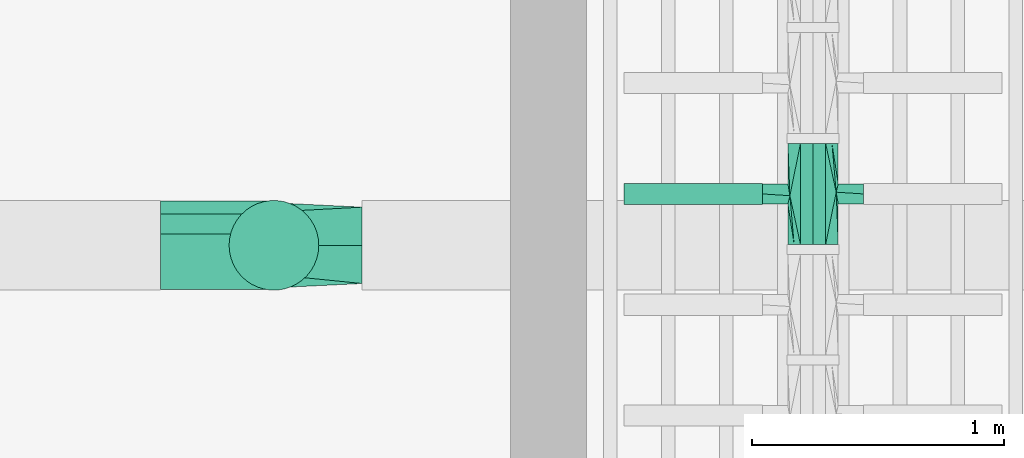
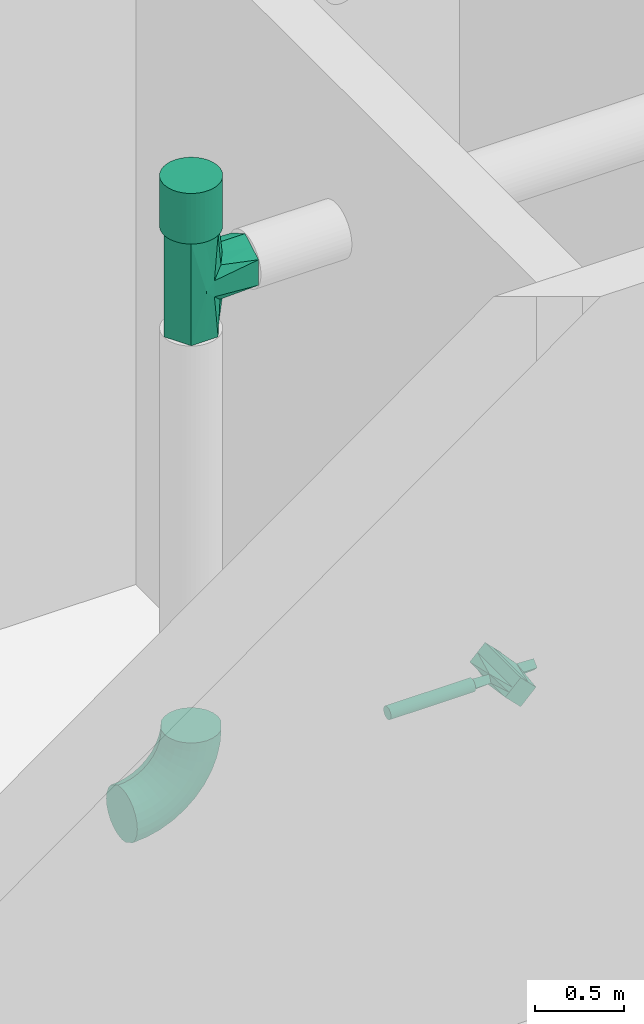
# One storey, part 11 of 28: 3 flow fittings, 2 flow segments.
"""IFC2X3 building model written with IfcOpenShell, lengths in millimetres."""

from ifc_helpers import new_model, entity, si_unit, converted_unit, direction, frame, origin, origin_2d_with_axis, place, context, subcontext, project, spatial, circle, extrude, faceted_brep, source, transform, mapped, material, type_object, type_shapes, element, save


model = new_model("IFC2X3")

# Units and contexts
model_context = context("Model", 3, precision=0.01, world=origin(), true_north=direction((6.123031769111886e-17, 1.0)))
body_context = subcontext(model_context, "Body", "Model", "MODEL_VIEW")
ifc_project = project(units=[si_unit("LENGTHUNIT", "METRE", prefix="MILLI"), converted_unit("PLANEANGLEUNIT", "DEGREE", entity("IfcPlaneAngleMeasure", 0.017453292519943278), si_unit("PLANEANGLEUNIT", "RADIAN"), dimensions=[0, 0, 0, 0, 0, 0, 0]), si_unit("AREAUNIT", "SQUARE_METRE")], contexts=[model_context])

# Site, building, storey
site_placement = place(None, frame((7776.576483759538, 118.3519876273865, 0.0)))
site = spatial("IfcSite", under=ifc_project, at=site_placement, Name="Default", CompositionType="ELEMENT")
building_placement = place(site_placement, origin())
building = spatial("IfcBuilding", under=site, at=building_placement, Name="Bygning (endres i Project Information)", CompositionType="ELEMENT")
storey_placement = place(building_placement, frame((0.0, 0.0, 14000.0)))
storey = spatial("IfcBuildingStorey", under=building, at=storey_placement, Name="Plan U1 - Arbeid", CompositionType="ELEMENT", Elevation=14000.000000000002)

# Flow segments
ifc_material = material(Name="SS 2343 Rustfritt stål, prosessrør, generisk")
pipe_segment_type = type_object("IfcPipeSegmentType", Name="Pipe Types:AISI 304L Rustfritt", PredefinedType="NOTDEFINED", material=ifc_material)
flow_segment_1_placement = place(storey_placement, origin())
element("IfcFlowSegment", 1, at=flow_segment_1_placement, inside=storey, type_object=pipe_segment_type, Name="Pipe Types:AISI 304L Rustfritt", ObjectType="Pipe Types:AISI 304L Rustfritt", context=body_context, shape_type="SweptSolid", body=[
    extrude(circle(Radius=178.0, at=origin_2d_with_axis()), frame((26834.001374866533, 21947.75730578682, 4153.0)), (0.0, 0.0, 1.0), 347.00000000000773),
])
flow_segment_2_placement = place(storey_placement, origin())
element("IfcFlowSegment", 2, at=flow_segment_2_placement, inside=storey, type_object=pipe_segment_type, Name="Pipe Types:AISI 304L Rustfritt", ObjectType="Pipe Types:AISI 304L Rustfritt", context=body_context, shape_type="SweptSolid", body=[
    extrude(circle(Radius=42.0, at=origin_2d_with_axis()), frame((28224.00137486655, 22151.757305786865, 203.0), z_axis=(1.0, 0.0, 0.0), x_axis=(0.0, -1.0, 0.0)), (0.0, 0.0, 1.0), 550.0000000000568),
])

# Flow fittings
pipe_fitting_type_1 = type_object("IfcPipeFittingType", Name="VA_prosess_rustfritt_T_D=L:T-rør_prosess_D=L", PredefinedType="NOTDEFINED", material=ifc_material)
shared_shape_1 = source(origin(), body_context, "Body", "Brep", [
    faceted_brep([(-350.0, -175.0, 0.0), (-350.0, -131.24999999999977, 75.77722283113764), (-350.0, -87.50000000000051, 151.55444566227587), (-350.0, 0.0, 151.55444566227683), (-350.0, 87.49999999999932, 151.55444566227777), (-350.0, 131.25000000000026, 75.77722283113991), (-350.0, 175.0, 0.0), (-350.0, 131.25000000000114, -75.77722283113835), (-350.0, 87.50000000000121, -151.5544456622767), (-350.0, 0.0, -151.55444566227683), (-350.0, -87.49999999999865, -151.55444566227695), (-350.0, -131.2499999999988, -75.77722283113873), (350.0, 175.0, 0.0), (350.0, 119.86366475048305, 95.49893399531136), (350.0, 87.4999999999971, 151.55444566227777), (350.0, 0.0, 151.55444566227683), (350.0, -87.50000000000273, 151.55444566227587), (350.0, -131.25000000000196, 75.77722283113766), (350.0, -175.0, 0.0), (350.0, -131.25000000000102, -75.77722283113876), (350.0, -87.50000000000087, -151.55444566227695), (350.0, 0.0, -151.55444566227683), (350.0, 87.49999999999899, -151.5544456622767), (350.0, 131.2499999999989, -75.77722283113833), (175.0, -175.0, 0.0), (158.5814013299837, -158.5814013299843, 74.00634535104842), (-175.0, -175.0, 0.0), (-158.58140132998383, -158.58140132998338, 74.00634535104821), (118.92314669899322, -118.92314669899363, 128.3833524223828), (55.11164726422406, -55.111647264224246, 166.09547355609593), (0.0, 0.0, 175.0), (-106.9956661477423, -106.99566614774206, 138.4807835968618), (-55.11164726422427, -55.11164726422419, 166.0954735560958), (-158.58140132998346, -158.58140132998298, -74.00634535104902), (55.11164726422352, -55.11164726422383, -166.09547355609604), (0.0, 0.0, -175.0), (-118.92314669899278, -118.92314669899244, -128.3833524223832), (-55.111647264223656, -55.111647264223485, -166.09547355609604), (106.99566614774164, -106.99566614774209, -138.4807835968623), (158.5814013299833, -158.58140132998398, -74.00634535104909), (87.50000000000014, -350.0, -151.5544456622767), (131.25000000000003, -350.0, -75.77722283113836), (175.0, -350.0, 0.0), (131.24999999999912, -350.0, 75.7772228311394), (87.49999999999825, -350.0, 151.55444566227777), (0.0, -350.0, 151.5544456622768), (-87.50000000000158, -350.0, 151.55444566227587), (-131.25000000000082, -350.0, 75.77722283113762), (-175.0, -350.0, 0.0), (-131.2499999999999, -350.0, -75.77722283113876), (-87.49999999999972, -350.0, -151.55444566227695), (0.0, -350.0, -151.5544456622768)], [[[0, 1, 2, 3, 4, 5, 6, 7, 8, 9, 10, 11]], [[12, 13, 14, 15, 16, 17, 18, 19, 20, 21, 22, 23]], [[24, 18, 25]], [[0, 26, 27]], [[12, 6, 5, 4, 14, 13]], [[28, 25, 17]], [[17, 16, 28]], [[0, 27, 1]], [[29, 15, 30]], [[1, 31, 2]], [[25, 18, 17]], [[31, 1, 27]], [[29, 16, 15]], [[30, 15, 14]], [[32, 30, 3]], [[2, 31, 32]], [[14, 4, 30]], [[3, 2, 32]], [[30, 4, 3]], [[28, 16, 29]], [[8, 7, 6, 12, 23, 22]], [[33, 0, 11]], [[34, 35, 21]], [[21, 20, 34]], [[8, 22, 35]], [[9, 8, 35]], [[36, 10, 37]], [[10, 9, 37]], [[37, 9, 35]], [[19, 38, 20]], [[39, 19, 18]], [[18, 24, 39]], [[33, 26, 0]], [[35, 22, 21]], [[38, 19, 39]], [[10, 36, 11]], [[11, 36, 33]], [[38, 34, 20]], [[40, 41, 42, 43, 44, 45, 46, 47, 48, 49, 50, 51]], [[27, 26, 48]], [[46, 31, 47]], [[43, 42, 25]], [[47, 31, 27]], [[27, 48, 47]], [[31, 46, 32]], [[28, 43, 25]], [[25, 42, 24]], [[45, 44, 29, 32, 46]], [[43, 28, 44]], [[29, 30, 32]], [[44, 28, 29]], [[24, 42, 39]], [[40, 38, 41]], [[49, 48, 33]], [[41, 38, 39]], [[39, 42, 41]], [[38, 40, 34]], [[36, 49, 33]], [[33, 48, 26]], [[51, 50, 37, 34, 40]], [[49, 36, 50]], [[37, 35, 34]], [[50, 36, 37]]]),
])
type_shapes(pipe_fitting_type_1, [shared_shape_1])
flow_fitting_1_placement = place(storey_placement, frame((26834.001374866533, 21947.75730578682, 3803.0), z_axis=(0.0, -1.0, 0.0), x_axis=(0.0, 0.0, 1.0)))
element("IfcFlowFitting", 3, at=flow_fitting_1_placement, inside=storey, type_object=pipe_fitting_type_1, material=ifc_material, Name="VA_prosess_rustfritt_T_D=L:T-rør_prosess_D=L", ObjectType="VA_prosess_rustfritt_T_D=L:T-rør_prosess_D=L", context=body_context, shape_type="MappedRepresentation", body=[
    mapped(shared_shape_1, transform((0.0, 0.0, 0.0), scale=1.0)),
])
pipe_fitting_type_2 = type_object("IfcPipeFittingType", Name="VA_prosess_rustfritt_bend_D+100:VA_prosess_rustfritt_bend_D+100", PredefinedType="NOTDEFINED", material=ifc_material)
shared_shape_2 = source(origin(), body_context, "Body", "Brep", [
    faceted_brep([(-352.2284593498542, -167.30521287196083, 0.0), (-353.16127499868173, -161.4156466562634, 45.29333289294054), (-450.0, -169.03701960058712, 45.29333289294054), (-450.0, -175.0, 0.0), (-355.89615210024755, -144.14831221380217, 87.4999999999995), (-450.0, -151.5544456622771, 87.4999999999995), (-360.2467132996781, -116.67994985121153, 123.74368670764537), (-450.0, -123.74368670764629, 123.74368670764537), (-365.91647504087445, -80.88248306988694, 151.5544456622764), (-450.0, -87.50000000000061, 151.5544456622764), (-372.5190524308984, -39.19545007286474, 169.03701960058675), (-450.0, -45.29333289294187, 169.03701960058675), (-379.6044907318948, 5.540246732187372, 175.0), (-450.0, 0.0, 175.0), (-386.6899290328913, 50.27594353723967, 169.03701960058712), (-450.0, 45.293332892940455, 169.03701960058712), (-393.29250642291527, 91.96297653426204, 151.55444566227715), (-450.0, 87.49999999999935, 151.55444566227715), (-398.9622681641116, 127.76044331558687, 123.7436867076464), (-450.0, 123.74368670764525, 123.7436867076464), (-406.04770646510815, 172.49614012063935, 45.29333289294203), (-450.0, 169.03701960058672, 45.29333289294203), (-406.98052211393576, 178.3857063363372, 0.0), (-450.0, 175.0, 0.0), (-406.0477064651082, 172.4961401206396, -45.29333289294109), (-450.0, 169.03701960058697, -45.29333289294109), (-403.31282936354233, 155.22880567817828, -87.49999999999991), (-450.0, 151.55444566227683, -87.49999999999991), (-398.9622681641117, 127.76044331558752, -123.74368670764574), (-450.0, 123.7436867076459, -123.74368670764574), (-393.2925064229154, 91.96297653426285, -151.5544456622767), (-450.0, 87.50000000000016, -151.5544456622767), (-386.6899290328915, 50.27594353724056, -169.0370196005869), (-450.0, 45.29333289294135, -169.0370196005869), (-379.604490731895, 5.540246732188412, -175.0), (-450.0, 0.0, -175.0), (-372.5190524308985, -39.195450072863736, -169.03701960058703), (-450.0, -45.29333289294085, -169.03701960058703), (-365.9164750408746, -80.88248306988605, -151.55444566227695), (-450.0, -87.4999999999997, -151.55444566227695), (-360.2467132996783, -116.6799498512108, -123.74368670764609), (-450.0, -123.74368670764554, -123.74368670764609), (-353.16127499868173, -161.41564665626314, -45.29333289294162), (-450.0, -169.03701960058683, -45.29333289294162), (-256.86437851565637, -144.41032268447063, 0.0), (-258.70704079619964, -138.7391913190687, 45.29333289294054), (-264.109453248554, -122.11227545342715, 87.4999999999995), (-272.7034503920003, -95.66267192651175, 123.74368670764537), (-283.9033655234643, -61.19287750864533, 151.5544456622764), (-296.9459429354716, -21.051951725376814, 169.03701960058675), (-310.94235253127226, 22.024567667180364, 175.0), (-324.93876212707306, 65.10108705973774, 169.03701960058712), (-337.9813395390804, 105.24201284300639, 151.55444566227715), (-349.18125467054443, 139.71180726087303, 123.7436867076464), (-363.1776642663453, 182.78832665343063, 45.29333289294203), (-365.0203265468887, 188.4594580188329, 0.0), (-363.17766426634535, 182.78832665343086, -45.29333289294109), (-357.77525181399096, 166.1614107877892, -87.49999999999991), (-349.18125467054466, 139.71180726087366, -123.74368670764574), (-337.9813395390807, 105.24201284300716, -151.5544456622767), (-324.93876212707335, 65.10108705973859, -169.0370196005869), (-310.9423525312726, 22.024567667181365, -175.0), (-296.94594293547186, -21.051951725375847, -169.03701960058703), (-283.9033655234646, -61.192877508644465, -151.55444566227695), (-272.70345039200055, -95.66267192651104, -123.74368670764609), (-258.70704079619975, -138.73919131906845, -45.29333289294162), (-166.25593766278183, -106.87907761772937, 0.0), (-168.9630741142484, -101.56602317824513, 45.29333289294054), (-176.8999965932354, -85.9889357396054, 87.4999999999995), (-189.52581694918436, -61.20936806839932, 123.74368670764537), (-205.9801063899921, -28.916006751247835, 151.5544456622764), (-225.14153228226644, 8.690409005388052, 169.03701960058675), (-245.7042751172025, 49.047064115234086, 175.0), (-266.2670179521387, 89.40371922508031, 169.03701960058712), (-285.4284438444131, 127.0101349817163, 151.55444566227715), (-301.88273328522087, 159.30349629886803, 123.7436867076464), (-322.44547612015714, 199.6601514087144, 45.29333289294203), (-325.15261257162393, 204.973205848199, 0.0), (-322.44547612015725, 199.66015140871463, -45.29333289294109), (-314.50855364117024, 184.0830639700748, -87.49999999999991), (-301.88273328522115, 159.30349629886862, -123.74368670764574), (-285.4284438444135, 127.01013498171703, -151.5544456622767), (-266.2670179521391, 89.4037192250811, -169.0370196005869), (-245.70427511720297, 49.047064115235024, -175.0), (-225.1415322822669, 8.690409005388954, -169.03701960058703), (-205.9801063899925, -28.916006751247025, -151.55444566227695), (-189.5258169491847, -61.20936806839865, -123.74368670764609), (-168.96307411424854, -101.56602317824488, -45.29333289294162), (-82.6342173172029, -55.63562148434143, 0.0), (-86.13916925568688, -50.811469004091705, 45.29333289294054), (-96.4151683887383, -36.667769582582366, 87.4999999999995), (-112.76192235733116, -14.168392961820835, 123.74368670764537), (-134.06542689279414, 15.15336552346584, 151.5544456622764), (-158.87388336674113, 49.299276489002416, 169.03701960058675), (-185.49663646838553, 85.94235253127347, 175.0), (-212.11938957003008, 122.58542857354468, 169.03701960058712), (-236.9278460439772, 156.73133953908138, 151.55444566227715), (-258.2313505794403, 186.05309802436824, 123.7436867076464), (-284.85410368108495, 222.69617406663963, 45.29333289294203), (-288.3590556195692, 227.5203265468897, 0.0), (-284.8541036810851, 222.69617406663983, -45.29333289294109), (-274.5781045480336, 208.55247464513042, -87.49999999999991), (-258.23135057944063, 186.05309802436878, -123.74368670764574), (-236.9278460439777, 156.731339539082, -151.5544456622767), (-212.11938957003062, 122.58542857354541, -169.0370196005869), (-185.49663646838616, 85.94235253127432, -175.0), (-158.87388336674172, 49.29927648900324, -169.03701960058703), (-134.06542689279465, 15.15336552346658, -151.55444566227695), (-112.7619223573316, -14.168392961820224, -123.74368670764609), (-86.13916925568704, -50.81146900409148, -45.29333289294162), (-8.058261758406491, 8.058261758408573, 0.0), (-12.274725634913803, 12.274725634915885, 45.29333289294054), (-24.63677221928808, 24.636772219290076, 87.4999999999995), (-44.30194846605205, 44.30194846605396, 123.74368670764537), (-69.93010511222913, 69.93010511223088, 151.5544456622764), (-99.77472563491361, 99.77472563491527, 169.03701960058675), (-131.801948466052, 131.80194846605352, 175.0), (-163.82917129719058, 163.82917129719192, 169.03701960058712), (-193.6737918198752, 193.67379181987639, 151.55444566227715), (-219.3019484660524, 219.3019484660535, 123.7436867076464), (-251.3291712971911, 251.32917129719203, 45.29333289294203), (-255.54563517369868, 255.54563517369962, 0.0), (-251.32917129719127, 251.32917129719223, -45.29333289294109), (-238.9671247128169, 238.96712471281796, -87.49999999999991), (-219.30194846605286, 219.30194846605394, -123.74368670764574), (-193.67379181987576, 193.67379181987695, -151.5544456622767), (-163.8291712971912, 163.82917129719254, -169.0370196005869), (-131.80194846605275, 131.80194846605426, -175.0), (-99.77472563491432, 99.774725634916, -169.03701960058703), (-69.93010511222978, 69.93010511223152, -151.55444566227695), (-44.30194846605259, 44.3019484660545, -123.74368670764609), (-12.274725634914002, 12.274725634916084, -45.29333289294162), (55.63562148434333, 82.63421731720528, 0.0), (50.81146900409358, 86.13916925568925, 45.29333289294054), (36.667769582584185, 96.41516838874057, 87.4999999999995), (14.168392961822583, 112.76192235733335, 123.74368670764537), (-15.153365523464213, 134.06542689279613, 151.5544456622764), (-49.29927648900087, 158.873883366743, 169.03701960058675), (-85.94235253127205, 185.49663646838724, 175.0), (-122.5854285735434, 212.11938957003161, 169.03701960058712), (-156.73133953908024, 236.92784604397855, 151.55444566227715), (-186.05309802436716, 258.23135057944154, 123.7436867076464), (-222.6961740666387, 284.854103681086, 45.29333289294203), (-227.52032654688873, 288.35905561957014, 0.0), (-222.6961740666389, 284.85410368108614, -45.29333289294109), (-208.5524746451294, 274.5781045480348, -87.49999999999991), (-186.05309802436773, 258.2313505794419, -123.74368670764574), (-156.73133953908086, 236.92784604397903, -151.5544456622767), (-122.58542857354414, 212.11938957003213, -169.0370196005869), (-85.9423525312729, 185.49663646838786, -175.0), (-49.29927648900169, 158.8738833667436, -169.03701960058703), (-15.153365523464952, 134.06542689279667, -151.55444566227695), (14.168392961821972, 112.76192235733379, -123.74368670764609), (50.811469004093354, 86.13916925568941, -45.29333289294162), (106.87907761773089, 166.25593766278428, 0.0), (101.56602317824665, 168.96307411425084, 45.29333289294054), (85.98893573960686, 176.89999659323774, 87.4999999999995), (61.209368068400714, 189.5258169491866, 123.74368670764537), (28.916006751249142, 205.98010638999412, 151.5544456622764), (-8.690409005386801, 225.14153228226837, 169.03701960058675), (-49.047064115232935, 245.70427511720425, 175.0), (-89.40371922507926, 266.2670179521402, 169.03701960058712), (-127.01013498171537, 285.42844384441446, 151.55444566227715), (-159.30349629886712, 301.8827332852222, 123.7436867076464), (-199.6601514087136, 322.44547612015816, 45.29333289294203), (-204.97320584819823, 325.1526125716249, 0.0), (-199.66015140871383, 322.4454761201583, -45.29333289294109), (-184.08306397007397, 314.5085536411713, -87.49999999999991), (-159.3034962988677, 301.88273328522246, -123.74368670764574), (-127.01013498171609, 285.42844384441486, -151.5544456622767), (-89.40371922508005, 266.2670179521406, -169.0370196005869), (-49.04706411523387, 245.7042751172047, -175.0), (-8.690409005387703, 225.14153228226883, -169.03701960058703), (28.916006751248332, 205.98010638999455, -151.55444566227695), (61.209368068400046, 189.52581694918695, -123.74368670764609), (101.5660231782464, 168.96307411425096, -45.29333289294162), (144.41032268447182, 256.8643785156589, 0.0), (138.73919131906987, 258.7070407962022, 45.29333289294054), (122.11227545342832, 264.1094532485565, 87.4999999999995), (95.66267192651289, 272.7034503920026, 123.74368670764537), (61.19287750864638, 283.9033655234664, 151.5544456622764), (21.05195172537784, 296.9459429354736, 169.03701960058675), (-22.024567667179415, 310.9423525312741, 175.0), (-65.10108705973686, 324.9387621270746, 169.03701960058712), (-105.24201284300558, 337.98133953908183, 151.55444566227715), (-139.7118072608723, 349.1812546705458, 123.7436867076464), (-182.7883266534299, 363.17766426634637, 45.29333289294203), (-188.45945801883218, 365.0203265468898, 0.0), (-182.78832665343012, 363.1776642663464, -45.29333289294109), (-166.16141078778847, 357.7752518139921, -87.49999999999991), (-139.71180726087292, 349.18125467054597, -123.74368670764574), (-105.24201284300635, 337.9813395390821, -151.5544456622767), (-65.10108705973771, 324.9387621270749, -169.0370196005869), (-22.024567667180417, 310.9423525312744, -175.0), (21.051951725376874, 296.94594293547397, -169.03701960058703), (61.192877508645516, 283.9033655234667, -151.55444566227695), (95.66267192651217, 272.7034503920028, -123.74368670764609), (138.73919131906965, 258.7070407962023, -45.29333289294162), (167.30521287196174, 352.22845934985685, 0.0), (161.4156466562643, 353.16127499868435, 45.29333289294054), (144.14831221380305, 355.89615210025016, 87.4999999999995), (116.67994985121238, 360.2467132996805, 123.74368670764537), (80.88248306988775, 365.9164750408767, 151.5544456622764), (39.19545007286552, 372.5190524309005, 169.03701960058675), (-5.5402467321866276, 379.6044907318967, 175.0), (-50.27594353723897, 386.68992903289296, 169.03701960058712), (-91.96297653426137, 393.29250642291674, 151.55444566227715), (-127.76044331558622, 398.962268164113, 123.7436867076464), (-172.49614012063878, 406.0477064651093, 45.29333289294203), (-178.38570633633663, 406.98052211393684, 0.0), (-172.49614012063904, 406.0477064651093, -45.29333289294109), (-155.22880567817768, 403.3128293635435, -87.49999999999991), (-127.76044331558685, 398.9622681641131, -123.74368670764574), (-91.96297653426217, 393.29250642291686, -151.5544456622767), (-50.275943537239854, 386.6899290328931, -169.0370196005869), (-5.540246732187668, 379.6044907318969, -175.0), (39.19545007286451, 372.5190524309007, -169.03701960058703), (80.88248306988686, 365.9164750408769, -151.55444566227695), (116.67994985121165, 360.2467132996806, -123.74368670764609), (161.41564665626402, 353.1612749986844, -45.29333289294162), (175.0, 450.0, 0.0), (169.0370196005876, 450.0, 45.29333289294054), (151.55444566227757, 450.0, 87.4999999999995), (123.74368670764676, 450.0, 123.74368670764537), (87.50000000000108, 450.0, 151.5544456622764), (45.293332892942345, 450.0, 169.03701960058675), (0.0, 450.0, 175.0), (-45.29333289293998, 450.0, 169.03701960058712), (-87.49999999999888, 450.0, 151.55444566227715), (-123.74368670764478, 450.0, 123.7436867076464), (-169.03701960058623, 450.0, 45.29333289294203), (-175.0, 450.0, 0.0), (-169.0370196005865, 450.0, -45.29333289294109), (-151.55444566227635, 450.0, -87.49999999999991), (-123.74368670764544, 450.0, -123.74368670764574), (-87.49999999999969, 450.0, -151.5544456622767), (-45.293332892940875, 450.0, -169.0370196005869), (0.0, 450.0, -175.0), (45.29333289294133, 450.0, -169.03701960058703), (87.50000000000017, 450.0, -151.55444566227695), (123.743686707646, 450.0, -123.74368670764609), (169.0370196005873, 450.0, -45.29333289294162)], [[[0, 1, 2, 3]], [[1, 4, 5, 2]], [[4, 6, 7, 5]], [[6, 8, 9, 7]], [[8, 10, 11, 9]], [[10, 12, 13, 11]], [[12, 14, 15, 13]], [[14, 16, 17, 15]], [[16, 18, 19, 17]], [[18, 20, 21, 19]], [[20, 22, 23, 21]], [[22, 24, 25, 23]], [[24, 26, 27, 25]], [[26, 28, 29, 27]], [[28, 30, 31, 29]], [[30, 32, 33, 31]], [[32, 34, 35, 33]], [[34, 36, 37, 35]], [[36, 38, 39, 37]], [[38, 40, 41, 39]], [[40, 42, 43, 41]], [[42, 0, 3, 43]], [[44, 45, 1, 0]], [[45, 46, 4, 1]], [[46, 47, 6, 4]], [[47, 48, 8, 6]], [[48, 49, 10, 8]], [[49, 50, 12, 10]], [[50, 51, 14, 12]], [[51, 52, 16, 14]], [[52, 53, 18, 16]], [[53, 54, 20, 18]], [[54, 55, 22, 20]], [[55, 56, 24, 22]], [[56, 57, 26, 24]], [[57, 58, 28, 26]], [[58, 59, 30, 28]], [[59, 60, 32, 30]], [[60, 61, 34, 32]], [[61, 62, 36, 34]], [[62, 63, 38, 36]], [[63, 64, 40, 38]], [[64, 65, 42, 40]], [[65, 44, 0, 42]], [[66, 67, 45, 44]], [[67, 68, 46, 45]], [[68, 69, 47, 46]], [[69, 70, 48, 47]], [[70, 71, 49, 48]], [[71, 72, 50, 49]], [[72, 73, 51, 50]], [[73, 74, 52, 51]], [[74, 75, 53, 52]], [[75, 76, 54, 53]], [[76, 77, 55, 54]], [[77, 78, 56, 55]], [[78, 79, 57, 56]], [[79, 80, 58, 57]], [[80, 81, 59, 58]], [[81, 82, 60, 59]], [[82, 83, 61, 60]], [[83, 84, 62, 61]], [[84, 85, 63, 62]], [[85, 86, 64, 63]], [[86, 87, 65, 64]], [[87, 66, 44, 65]], [[88, 89, 67, 66]], [[89, 90, 68, 67]], [[90, 91, 69, 68]], [[91, 92, 70, 69]], [[92, 93, 71, 70]], [[93, 94, 72, 71]], [[94, 95, 73, 72]], [[95, 96, 74, 73]], [[96, 97, 75, 74]], [[97, 98, 76, 75]], [[98, 99, 77, 76]], [[99, 100, 78, 77]], [[100, 101, 79, 78]], [[101, 102, 80, 79]], [[102, 103, 81, 80]], [[103, 104, 82, 81]], [[104, 105, 83, 82]], [[105, 106, 84, 83]], [[106, 107, 85, 84]], [[107, 108, 86, 85]], [[108, 109, 87, 86]], [[109, 88, 66, 87]], [[110, 111, 89, 88]], [[111, 112, 90, 89]], [[112, 113, 91, 90]], [[113, 114, 92, 91]], [[114, 115, 93, 92]], [[115, 116, 94, 93]], [[116, 117, 95, 94]], [[117, 118, 96, 95]], [[118, 119, 97, 96]], [[119, 120, 98, 97]], [[120, 121, 99, 98]], [[121, 122, 100, 99]], [[122, 123, 101, 100]], [[123, 124, 102, 101]], [[124, 125, 103, 102]], [[125, 126, 104, 103]], [[126, 127, 105, 104]], [[127, 128, 106, 105]], [[128, 129, 107, 106]], [[129, 130, 108, 107]], [[130, 131, 109, 108]], [[131, 110, 88, 109]], [[132, 133, 111, 110]], [[133, 134, 112, 111]], [[134, 135, 113, 112]], [[135, 136, 114, 113]], [[136, 137, 115, 114]], [[137, 138, 116, 115]], [[138, 139, 117, 116]], [[139, 140, 118, 117]], [[140, 141, 119, 118]], [[141, 142, 120, 119]], [[142, 143, 121, 120]], [[143, 144, 122, 121]], [[144, 145, 123, 122]], [[145, 146, 124, 123]], [[146, 147, 125, 124]], [[147, 148, 126, 125]], [[148, 149, 127, 126]], [[149, 150, 128, 127]], [[150, 151, 129, 128]], [[151, 152, 130, 129]], [[152, 153, 131, 130]], [[153, 132, 110, 131]], [[154, 155, 133, 132]], [[155, 156, 134, 133]], [[156, 157, 135, 134]], [[157, 158, 136, 135]], [[158, 159, 137, 136]], [[159, 160, 138, 137]], [[160, 161, 139, 138]], [[161, 162, 140, 139]], [[162, 163, 141, 140]], [[163, 164, 142, 141]], [[164, 165, 143, 142]], [[165, 166, 144, 143]], [[166, 167, 145, 144]], [[167, 168, 146, 145]], [[168, 169, 147, 146]], [[169, 170, 148, 147]], [[170, 171, 149, 148]], [[171, 172, 150, 149]], [[172, 173, 151, 150]], [[173, 174, 152, 151]], [[174, 175, 153, 152]], [[175, 154, 132, 153]], [[176, 177, 155, 154]], [[177, 178, 156, 155]], [[178, 179, 157, 156]], [[179, 180, 158, 157]], [[180, 181, 159, 158]], [[181, 182, 160, 159]], [[182, 183, 161, 160]], [[183, 184, 162, 161]], [[184, 185, 163, 162]], [[185, 186, 164, 163]], [[186, 187, 165, 164]], [[187, 188, 166, 165]], [[188, 189, 167, 166]], [[189, 190, 168, 167]], [[190, 191, 169, 168]], [[191, 192, 170, 169]], [[192, 193, 171, 170]], [[193, 194, 172, 171]], [[194, 195, 173, 172]], [[195, 196, 174, 173]], [[196, 197, 175, 174]], [[197, 176, 154, 175]], [[198, 199, 177, 176]], [[199, 200, 178, 177]], [[200, 201, 179, 178]], [[201, 202, 180, 179]], [[202, 203, 181, 180]], [[203, 204, 182, 181]], [[204, 205, 183, 182]], [[205, 206, 184, 183]], [[206, 207, 185, 184]], [[207, 208, 186, 185]], [[208, 209, 187, 186]], [[209, 210, 188, 187]], [[210, 211, 189, 188]], [[211, 212, 190, 189]], [[212, 213, 191, 190]], [[213, 214, 192, 191]], [[214, 215, 193, 192]], [[215, 216, 194, 193]], [[216, 217, 195, 194]], [[217, 218, 196, 195]], [[218, 219, 197, 196]], [[219, 198, 176, 197]], [[220, 221, 199, 198]], [[221, 222, 200, 199]], [[222, 223, 201, 200]], [[223, 224, 202, 201]], [[224, 225, 203, 202]], [[225, 226, 204, 203]], [[226, 227, 205, 204]], [[227, 228, 206, 205]], [[228, 229, 207, 206]], [[229, 230, 208, 207]], [[230, 231, 209, 208]], [[231, 232, 210, 209]], [[232, 233, 211, 210]], [[233, 234, 212, 211]], [[234, 235, 213, 212]], [[235, 236, 214, 213]], [[236, 237, 215, 214]], [[237, 238, 216, 215]], [[238, 239, 217, 216]], [[239, 240, 218, 217]], [[240, 241, 219, 218]], [[241, 220, 198, 219]], [[3, 2, 5, 7, 9, 11, 13, 15, 17, 19, 21, 23, 25, 27, 29, 31, 33, 35, 37, 39, 41, 43]], [[241, 240, 239, 238, 237, 236, 235, 234, 233, 232, 231, 230, 229, 228, 227, 226, 225, 224, 223, 222, 221, 220]]]),
])
type_shapes(pipe_fitting_type_2, [shared_shape_2])
flow_fitting_2_placement = place(storey_placement, frame((26834.00137486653, 21947.75730578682, 278.0), z_axis=(0.0, 1.0, 0.0), x_axis=(0.0, 0.0, -1.0)))
element("IfcFlowFitting", 4, at=flow_fitting_2_placement, inside=storey, type_object=pipe_fitting_type_2, material=ifc_material, Name="VA_prosess_rustfritt_bend_D+100:VA_prosess_rustfritt_bend_D+100", ObjectType="VA_prosess_rustfritt_bend_D+100:VA_prosess_rustfritt_bend_D+100", context=body_context, shape_type="MappedRepresentation", body=[
    mapped(shared_shape_2, transform((0.0, 0.0, 0.0), scale=1.0)),
])
pipe_fitting_type_3 = type_object("IfcPipeFittingType", Name="VA_prosess_rustfritt_kryss:VA_prosess_rustfritt_kryss", PredefinedType="NOTDEFINED", material=ifc_material)
shared_shape_3 = source(origin(), body_context, "Body", "Brep", [
    faceted_brep([(-200.0, -100.0, 0.0), (-200.0, -50.0, 50.0), (-200.0, 0.0, 100.0), (-200.0, 50.0, 50.0), (-200.0, 75.0, 25.0), (-200.0, 100.0, 0.0), (-200.0, 50.0, -50.0), (-200.0, 0.0, -100.0), (-200.0, -50.0, -50.0), (-200.0, -75.0, -25.0), (200.0, 50.0, -50.0), (200.0, 75.0, -25.0), (200.0, 100.0, 0.0), (200.0, 50.0, 50.0), (200.0, 0.0, 100.0), (200.0, -50.0, 50.0), (200.0, -75.0, 25.0), (200.0, -100.0, 0.0), (200.0, -50.0, -50.0), (200.0, 0.0, -100.0), (40.0, -100.0, 0.0), (-7.006670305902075, 91.91895032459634, 39.381551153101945), (-40.0, -100.0, 0.0), (-28.24833242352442, -97.97973758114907, 9.845387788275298), (-16.496664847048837, -95.9594751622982, 19.690775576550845), (-4.744997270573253, -93.93921274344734, 29.53616336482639), (7.00667030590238, -91.91895032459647, 39.38155115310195), (23.50333515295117, -95.95947516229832, 19.690775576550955), (-23.503335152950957, 95.95947516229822, 19.69077557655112), (-40.0, 100.0, 0.0), (40.0, 100.0, 0.0), (28.248332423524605, 97.97973758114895, 9.845387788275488), (16.496664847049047, 95.95947516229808, 19.690775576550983), (4.744997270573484, 93.93921274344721, 29.536163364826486), (-7.017574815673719, -91.91978218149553, -39.37960949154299), (-23.508787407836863, -95.95989109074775, -19.68980474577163), (-28.245606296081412, 97.97994554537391, -9.844902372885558), (-16.491212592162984, 95.95989109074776, -19.689804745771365), (-4.736818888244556, 93.93983663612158, -29.534707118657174), (7.017574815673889, 91.91978218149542, -39.37960949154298), (23.508787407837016, 95.95989109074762, -19.689804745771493), (28.24560629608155, -97.97994554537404, -9.844902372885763), (16.49121259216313, -95.95989109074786, -19.689804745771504), (4.736818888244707, -93.9398366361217, -29.53470711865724), (19.233483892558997, -200.0, -20.76651610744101), (29.616741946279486, -200.0, -10.383258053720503), (40.0, -200.0, 0.0), (20.0, -200.0, 20.0), (0.0, -200.0, 40.0), (-19.2334837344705, -200.0, 20.76651626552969), (-29.616741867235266, -200.0, 10.383258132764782), (-40.0, -200.0, 0.0), (-20.0, -200.0, -20.0), (0.0, -200.0, -40.0), (-19.23348389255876, 200.0, -20.766516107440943), (-29.616741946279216, 200.0, -10.38325805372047), (-40.0, 200.0, 0.0), (-20.0, 200.0, 20.0), (0.0, 200.0, 40.0), (19.233483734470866, 200.0, 20.76651626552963), (29.616741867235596, 200.0, 10.383258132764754), (40.0, 200.0, 0.0), (20.0, 200.0, -20.0), (0.0, 200.0, -40.0)], [[[0, 1, 2, 3, 4, 5, 6, 7, 8, 9]], [[10, 11, 12, 13, 14, 15, 16, 17, 18, 19]], [[17, 16, 20]], [[15, 14, 2, 1]], [[3, 13, 21]], [[0, 22, 23, 24, 25, 26]], [[0, 26, 1]], [[16, 26, 27, 20]], [[4, 21, 28, 29]], [[21, 13, 12]], [[26, 16, 15]], [[12, 30, 31, 32, 33, 21]], [[29, 5, 4]], [[2, 14, 13, 3]], [[21, 4, 3]], [[1, 26, 15]], [[11, 30, 12]], [[10, 19, 7, 6]], [[34, 9, 8]], [[9, 34, 35, 22]], [[5, 29, 36, 37, 38, 39]], [[39, 11, 10]], [[5, 39, 6]], [[34, 18, 17]], [[11, 39, 40, 30]], [[17, 20, 41, 42, 43, 34]], [[22, 0, 9]], [[7, 19, 18, 8]], [[6, 39, 10]], [[8, 18, 34]], [[44, 45, 46, 47, 48, 49, 50, 51, 52, 53]], [[25, 24, 23, 49]], [[49, 23, 50]], [[50, 22, 51]], [[49, 48, 25]], [[26, 48, 47]], [[47, 27, 26]], [[20, 27, 46]], [[46, 27, 47]], [[48, 26, 25]], [[22, 50, 23]], [[43, 42, 41, 44]], [[44, 41, 45]], [[45, 20, 46]], [[44, 53, 43]], [[34, 53, 52]], [[52, 35, 34]], [[22, 35, 51]], [[51, 35, 52]], [[53, 34, 43]], [[20, 45, 41]], [[54, 55, 56, 57, 58, 59, 60, 61, 62, 63]], [[33, 32, 31, 59]], [[59, 31, 60]], [[60, 30, 61]], [[59, 58, 33]], [[21, 58, 57]], [[57, 28, 21]], [[29, 28, 56]], [[56, 28, 57]], [[58, 21, 33]], [[30, 60, 31]], [[38, 37, 36, 54]], [[54, 36, 55]], [[55, 29, 56]], [[54, 63, 38]], [[39, 63, 62]], [[62, 40, 39]], [[30, 40, 61]], [[61, 40, 62]], [[63, 39, 38]], [[29, 55, 36]]]),
])
type_shapes(pipe_fitting_type_3, [shared_shape_3])
flow_fitting_3_placement = place(storey_placement, frame((28974.00137486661, 22151.757305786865, 203.0), z_axis=(0.0, 0.0, 1.0), x_axis=(0.0, 1.0, 0.0)))
element("IfcFlowFitting", 5, at=flow_fitting_3_placement, inside=storey, type_object=pipe_fitting_type_3, material=ifc_material, Name="VA_prosess_rustfritt_kryss:VA_prosess_rustfritt_kryss", ObjectType="VA_prosess_rustfritt_kryss:VA_prosess_rustfritt_kryss", context=body_context, shape_type="MappedRepresentation", body=[
    mapped(shared_shape_3, transform((0.0, 0.0, 0.0), scale=1.0)),
])

save(model, "model.ifc")
